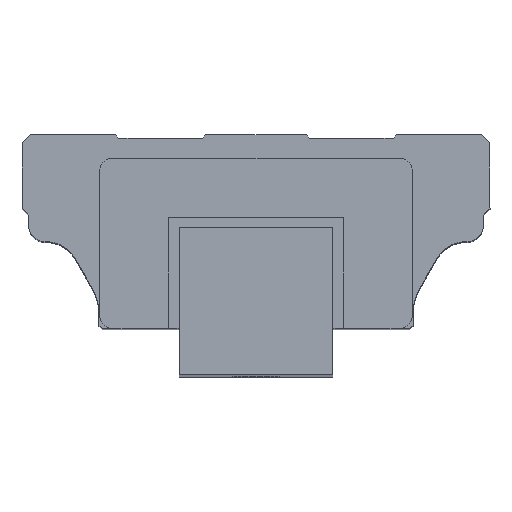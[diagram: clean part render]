
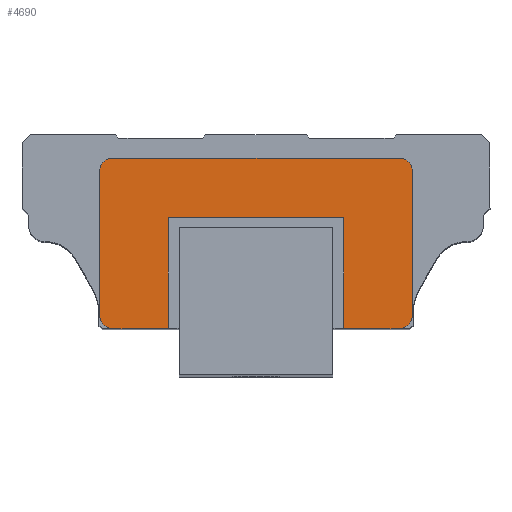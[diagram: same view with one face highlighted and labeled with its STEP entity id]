
A CAD part, top view. The second image highlights one B-rep face of the part: STEP entity #4690.
In plain terms, the highlighted planar face has unit normal (0, 0, 1).
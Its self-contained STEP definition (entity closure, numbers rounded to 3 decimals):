
#4164=CARTESIAN_POINT('',(-1.6,23.6,162.55));
#4165=VERTEX_POINT('',#4164);
#4166=CARTESIAN_POINT('',(-1.6,7.0,162.55));
#4167=VERTEX_POINT('',#4166);
#4168=CARTESIAN_POINT('',(-1.6,23.6,162.55));
#4169=DIRECTION('',(0.0,-1.0,0.0));
#4170=VECTOR('',#4169,1.0);
#4171=LINE('',#4168,#4170);
#4172=EDGE_CURVE('',#4165,#4167,#4171,.T.);
#4204=CARTESIAN_POINT('',(24.6,23.6,162.55));
#4205=VERTEX_POINT('',#4204);
#4206=CARTESIAN_POINT('',(24.6,23.6,162.55));
#4207=DIRECTION('',(-1.0,0.0,0.0));
#4208=VECTOR('',#4207,1.0);
#4209=LINE('',#4206,#4208);
#4210=EDGE_CURVE('',#4205,#4165,#4209,.T.);
#4235=CARTESIAN_POINT('',(24.6,7.0,162.55));
#4236=VERTEX_POINT('',#4235);
#4237=CARTESIAN_POINT('',(24.6,7.0,162.55));
#4238=DIRECTION('',(0.0,1.0,0.0));
#4239=VECTOR('',#4238,1.0);
#4240=LINE('',#4237,#4239);
#4241=EDGE_CURVE('',#4236,#4205,#4240,.T.);
#4394=CARTESIAN_POINT('',(32.9,32.5,162.55));
#4395=VERTEX_POINT('',#4394);
#4396=CARTESIAN_POINT('',(34.9,30.5,162.55));
#4397=VERTEX_POINT('',#4396);
#4398=CARTESIAN_POINT('',(32.9,30.5,162.55));
#4399=DIRECTION('',(0.0,0.0,-1.0));
#4400=DIRECTION('',(0.0,1.0,0.0));
#4401=AXIS2_PLACEMENT_3D('',#4398,#4399,#4400);
#4402=CIRCLE('',#4401,2.);
#4403=EDGE_CURVE('',#4395,#4397,#4402,.T.);
#4436=CARTESIAN_POINT('',(34.9,9.0,162.55));
#4437=VERTEX_POINT('',#4436);
#4438=CARTESIAN_POINT('',(34.9,30.5,162.55));
#4439=DIRECTION('',(0.0,-1.0,0.0));
#4440=VECTOR('',#4439,1.0);
#4441=LINE('',#4438,#4440);
#4442=EDGE_CURVE('',#4397,#4437,#4441,.T.);
#4467=CARTESIAN_POINT('',(32.9,7.0,162.55));
#4468=VERTEX_POINT('',#4467);
#4469=CARTESIAN_POINT('',(32.9,9.,162.55));
#4470=DIRECTION('',(0.0,0.0,-1.0));
#4471=DIRECTION('',(1.0,0.0,0.0));
#4472=AXIS2_PLACEMENT_3D('',#4469,#4470,#4471);
#4473=CIRCLE('',#4472,2.);
#4474=EDGE_CURVE('',#4437,#4468,#4473,.T.);
#4500=CARTESIAN_POINT('',(32.9,7.0,162.55));
#4501=DIRECTION('',(-1.0,0.0,0.0));
#4502=VECTOR('',#4501,1.0);
#4503=LINE('',#4500,#4502);
#4504=EDGE_CURVE('',#4468,#4236,#4503,.T.);
#4524=CARTESIAN_POINT('',(-9.9,7.0,162.55));
#4525=VERTEX_POINT('',#4524);
#4526=CARTESIAN_POINT('',(-1.6,7.0,162.55));
#4527=DIRECTION('',(-1.0,0.0,0.0));
#4528=VECTOR('',#4527,1.0);
#4529=LINE('',#4526,#4528);
#4530=EDGE_CURVE('',#4167,#4525,#4529,.T.);
#4557=CARTESIAN_POINT('',(-11.9,9.0,162.55));
#4558=VERTEX_POINT('',#4557);
#4559=CARTESIAN_POINT('',(-9.9,9.,162.55));
#4560=DIRECTION('',(0.0,0.0,-1.0));
#4561=DIRECTION('',(0.,-1.0,0.0));
#4562=AXIS2_PLACEMENT_3D('',#4559,#4560,#4561);
#4563=CIRCLE('',#4562,2.);
#4564=EDGE_CURVE('',#4525,#4558,#4563,.T.);
#4590=CARTESIAN_POINT('',(-11.9,30.5,162.55));
#4591=VERTEX_POINT('',#4590);
#4592=CARTESIAN_POINT('',(-11.9,9.0,162.55));
#4593=DIRECTION('',(0.0,1.0,0.0));
#4594=VECTOR('',#4593,1.0);
#4595=LINE('',#4592,#4594);
#4596=EDGE_CURVE('',#4558,#4591,#4595,.T.);
#4621=CARTESIAN_POINT('',(-9.9,32.5,162.55));
#4622=VERTEX_POINT('',#4621);
#4623=CARTESIAN_POINT('',(-9.9,30.5,162.55));
#4624=DIRECTION('',(0.0,0.0,-1.0));
#4625=DIRECTION('',(-1.0,0.,0.0));
#4626=AXIS2_PLACEMENT_3D('',#4623,#4624,#4625);
#4627=CIRCLE('',#4626,2.);
#4628=EDGE_CURVE('',#4591,#4622,#4627,.T.);
#4654=CARTESIAN_POINT('',(-9.9,32.5,162.55));
#4655=DIRECTION('',(1.0,0.0,0.0));
#4656=VECTOR('',#4655,1.0);
#4657=LINE('',#4654,#4656);
#4658=EDGE_CURVE('',#4622,#4395,#4657,.T.);
#4671=CARTESIAN_POINT('',(-14.24,5.725,162.55));
#4672=DIRECTION('',(0.0,0.0,1.0));
#4673=DIRECTION('',(1.0,0.0,0.0));
#4674=AXIS2_PLACEMENT_3D('',#4671,#4672,#4673);
#4675=PLANE('',#4674);
#4676=ORIENTED_EDGE('',*,*,#4403,.F.);
#4677=ORIENTED_EDGE('',*,*,#4658,.F.);
#4678=ORIENTED_EDGE('',*,*,#4628,.F.);
#4679=ORIENTED_EDGE('',*,*,#4596,.F.);
#4680=ORIENTED_EDGE('',*,*,#4564,.F.);
#4681=ORIENTED_EDGE('',*,*,#4530,.F.);
#4682=ORIENTED_EDGE('',*,*,#4172,.F.);
#4683=ORIENTED_EDGE('',*,*,#4210,.F.);
#4684=ORIENTED_EDGE('',*,*,#4241,.F.);
#4685=ORIENTED_EDGE('',*,*,#4504,.F.);
#4686=ORIENTED_EDGE('',*,*,#4474,.F.);
#4687=ORIENTED_EDGE('',*,*,#4442,.F.);
#4688=EDGE_LOOP('',(#4676,#4677,#4678,#4679,#4680,#4681,#4682,#4683,#4684,#4685,#4686,#4687));
#4689=FACE_OUTER_BOUND('',#4688,.T.);
#4690=ADVANCED_FACE('',(#4689),#4675,.T.);
